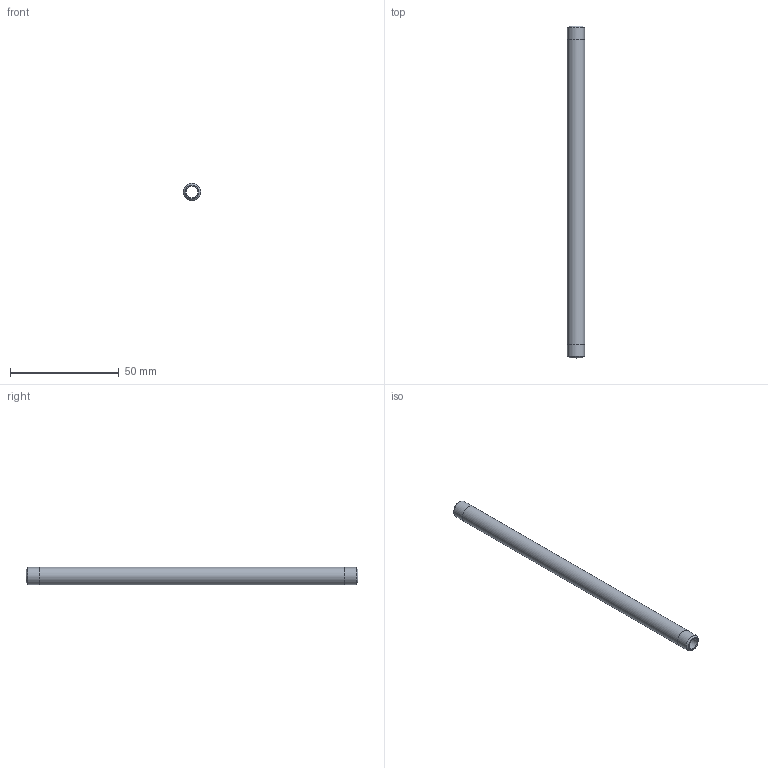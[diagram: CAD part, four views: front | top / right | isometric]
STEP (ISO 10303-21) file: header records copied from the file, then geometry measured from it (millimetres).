
FILE_DESCRIPTION(/* description */ (''),/* implementation_level */ '2;1');
FILE_NAME(/* name */ 'C:/Users/drich/Desktop/SSPN16-6 v1.step',/* time_stamp */ '2020-01-04T13:23:22-06:00',/* author */ (''),/* organization */ (''),/* preprocessor_version */ 'ST-DEVELOPER v18',/* originating_system */ 'Autodesk Translation Framework v8.12.0.6',/* authorisation */ '');
FILE_SCHEMA (('AUTOMOTIVE_DESIGN { 1 0 10303 214 3 1 1 }'));
Length unit declared in the file: inch
Products named in the file (1): SSPN16-6
Bounding box: 7.92 x 152.4 x 7.92 mm (x, y, z)
Volume: 4122.5 mm3; surface area: 6364.6 mm2
Topology: 1 solids, 1 shells, 10 faces, 24 edges, 18 vertices
Faces by surface type: cylinder 4, plane 4, cone 2
Full cylindrical faces by diameter (mm): 5.309 x1, 7.874 x2, 7.925 x1
Entity records: 353 total; most frequent: DIRECTION 64, CARTESIAN_POINT 53, ORIENTED_EDGE 48, AXIS2_PLACEMENT_3D 29, EDGE_CURVE 24, CIRCLE 18, VERTEX_POINT 18, EDGE_LOOP 14
